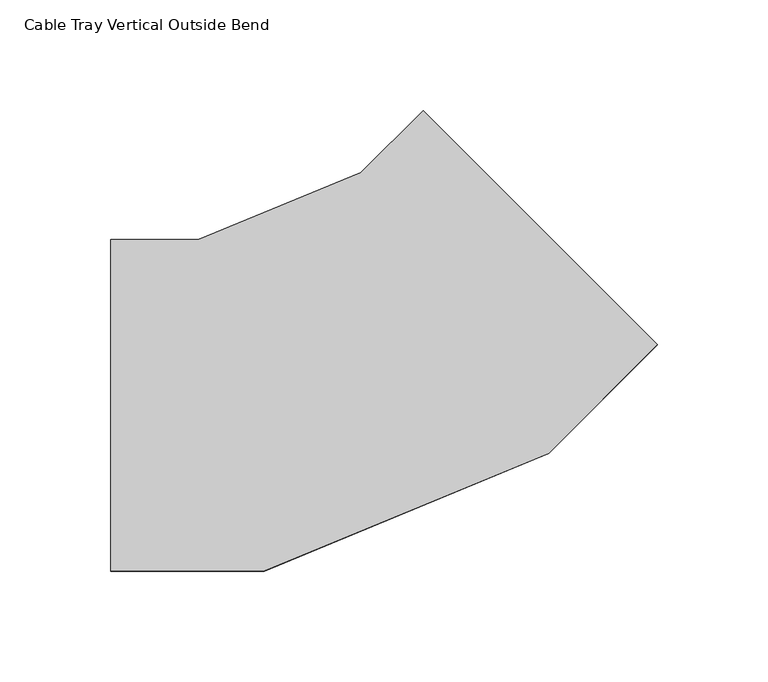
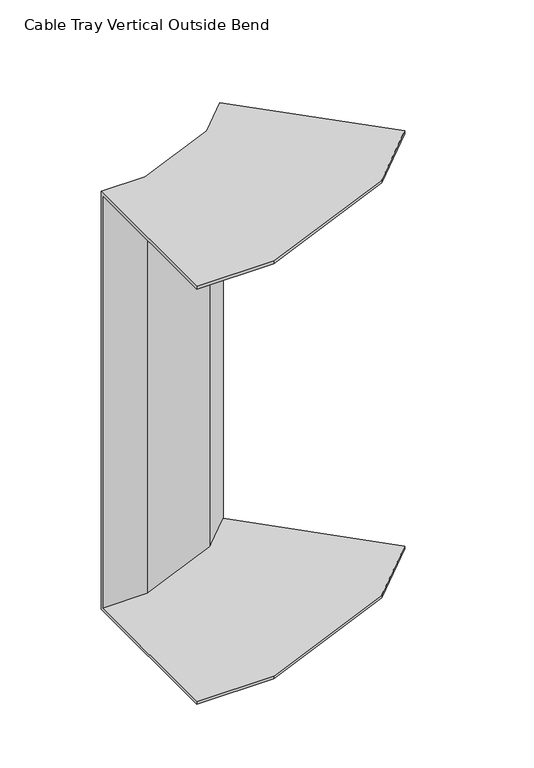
"""IFC4 building model written with IfcOpenShell, lengths in millimetres: cable carrier fitting geometry, Cable Tray Vertical Outside Bend : ELEC_ELV_TKG_N2402."""

from ifc_helpers import new_model, si_unit, origin, place, context, project, spatial, faceted_brep, source, transform, mapped, element, save


def cable_tray_vertical_outside_bend_a3d3d836(model_context):
    return source(origin(), model_context, "Body", "Brep", [
        faceted_brep([(-113.9087297, -75.0, 200.0), (-113.9087297, 75.0, 200.0), (-113.9087297, 75.0, -200.0), (-113.9087297, -75.0, -200.0), (-113.9087297, -75.0, -197.46), (-113.9087297, 72.46, -197.46), (-113.9087297, 72.46, 197.46), (-113.9087297, -75.0, 197.46), (133.5786438, 27.5126266, 200.0), (133.5786438, 27.5126266, 197.46), (29.3086778, 131.7825925, 197.46), (29.3086778, 131.7825925, -197.46), (133.5786438, 27.5126266, -197.46), (133.5786438, 27.5126266, -200.0), (27.5126266, 133.5786438, -200.0), (27.5126266, 133.5786438, 200.0), (-44.2894011, -75.0, 200.0), (84.3503444, -21.7156728, 200.0), (-0.6178302, 105.448187, 200.0), (-74.1262562, 75.0, 200.0), (-74.1262562, 75.0, -200.0), (-0.6178302, 105.448187, -200.0), (84.3503444, -21.7156728, -200.0), (-44.2894011, -75.0, -200.0), (-44.2894011, -75.0, -197.46), (84.3503444, -21.7156728, -197.46), (0.8209642, 103.294879, -197.46), (-73.6210188, 72.46, -197.46), (-73.6210188, 72.46, 197.46), (0.8209642, 103.294879, 197.46), (84.3503444, -21.7156728, 197.46), (-44.2894011, -75.0, 197.46)], [[[0, 1, 2, 3, 4, 5, 6, 7]], [[8, 9, 10, 11, 12, 13, 14, 15]], [[1, 0, 16, 17, 8, 15, 18, 19]], [[2, 1, 19, 20]], [[3, 2, 20, 21, 14, 13, 22, 23]], [[4, 3, 23, 24]], [[5, 4, 24, 25, 12, 11, 26, 27]], [[6, 5, 27, 28]], [[7, 6, 28, 29, 10, 9, 30, 31]], [[0, 7, 31, 16]], [[20, 19, 18, 21]], [[24, 23, 22, 25]], [[28, 27, 26, 29]], [[16, 31, 30, 17]], [[21, 18, 15, 14]], [[25, 22, 13, 12]], [[29, 26, 11, 10]], [[17, 30, 9, 8]]]),
    ])


if __name__ == "__main__":
    model = new_model("IFC4")
    model_context = context("Model", 3, world=origin())
    ifc_project = project(units=[si_unit("LENGTHUNIT", "METRE", prefix="MILLI")], contexts=[model_context])
    site = spatial("IfcSite", under=ifc_project)
    building = spatial("IfcBuilding", under=site)
    placement = place(None, origin())
    cable_tray_vertical_outside_bend_shape = cable_tray_vertical_outside_bend_a3d3d836(model_context)
    element("IfcCableCarrierFitting", 1, ObjectType="Cable Tray Vertical Outside Bend : ELEC_ELV_TKG_N2402", at=placement, inside=building, context=model_context, shape_type="MappedRepresentation", body=[
        mapped(cable_tray_vertical_outside_bend_shape, transform((0.0, 0.0, 0.0), x_axis=(1.0, 0.0, 0.0), y_axis=(0.0, 1.0, 0.0), z_axis=(0.0, 0.0, 1.0))),
    ])
    save(model, "model.ifc")
